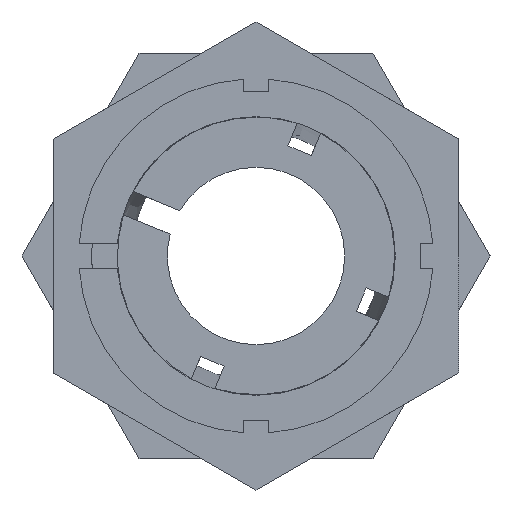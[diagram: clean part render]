
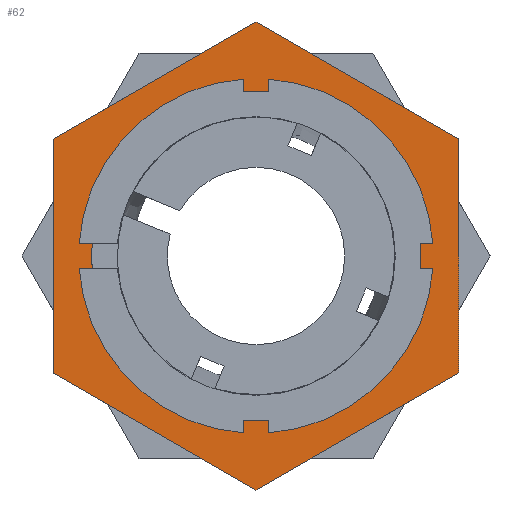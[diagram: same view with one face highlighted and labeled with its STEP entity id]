
A CAD part, left-side view. The second image highlights one B-rep face of the part: STEP entity #62.
In plain terms, the highlighted planar face has unit normal (-1, 0, 0).
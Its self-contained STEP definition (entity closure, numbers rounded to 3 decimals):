
#62 = ADVANCED_FACE ( 'NONE', ( #271, #276 ), #1613, .F. ) ;
#271 = FACE_BOUND ( 'NONE', #2342, .T. ) ;
#276 = FACE_OUTER_BOUND ( 'NONE', #2330, .T. ) ;
#453 = VECTOR ( 'NONE', #2082, 1000. ) ;
#462 = LINE ( 'NONE', #2044, #463 ) ;
#463 = VECTOR ( 'NONE', #2045, 1000. ) ;
#482 = CIRCLE ( 'NONE', #1364, 6.501 ) ;
#483 = LINE ( 'NONE', #2081, #453 ) ;
#486 = LINE ( 'NONE', #2073, #487 ) ;
#487 = VECTOR ( 'NONE', #2074, 1000. ) ;
#488 = LINE ( 'NONE', #2075, #489 ) ;
#489 = VECTOR ( 'NONE', #2076, 1000. ) ;
#490 = LINE ( 'NONE', #2077, #491 ) ;
#491 = VECTOR ( 'NONE', #2078, 1000. ) ;
#494 = CIRCLE ( 'NONE', #1368, 6.501 ) ;
#495 = LINE ( 'NONE', #2083, #496 ) ;
#496 = VECTOR ( 'NONE', #2084, 1000. ) ;
#862 = CARTESIAN_POINT ( 'NONE',  ( 11.52, 0., -6.501 ) ) ;
#863 = CARTESIAN_POINT ( 'NONE',  ( 11.52, 0., 6.501 ) ) ;
#864 = CARTESIAN_POINT ( 'NONE',  ( 11.52, 0., 9.238 ) ) ;
#865 = CARTESIAN_POINT ( 'NONE',  ( 11.52, 8., 4.619 ) ) ;
#866 = CARTESIAN_POINT ( 'NONE',  ( 11.52, 8., -4.619 ) ) ;
#867 = CARTESIAN_POINT ( 'NONE',  ( 11.52, 0., -9.238 ) ) ;
#868 = CARTESIAN_POINT ( 'NONE',  ( 11.52, -8., -4.619 ) ) ;
#869 = CARTESIAN_POINT ( 'NONE',  ( 11.52, -8., 4.619 ) ) ;
#1137 = EDGE_CURVE ( 'NONE', #1467, #1468, #462, .T. ) ;
#1146 = EDGE_CURVE ( 'NONE', #1463, #1464, #482, .T. ) ;
#1150 = EDGE_CURVE ( 'NONE', #1466, #1467, #486, .T. ) ;
#1151 = EDGE_CURVE ( 'NONE', #1469, #1470, #488, .T. ) ;
#1152 = EDGE_CURVE ( 'NONE', #1468, #1469, #490, .T. ) ;
#1153 = EDGE_CURVE ( 'NONE', #1464, #1463, #494, .T. ) ;
#1154 = EDGE_CURVE ( 'NONE', #1465, #1466, #483, .T. ) ;
#1155 = EDGE_CURVE ( 'NONE', #1470, #1465, #495, .T. ) ;
#1286 = AXIS2_PLACEMENT_3D ( 'NONE', #1612, #1615, #1616 ) ;
#1364 = AXIS2_PLACEMENT_3D ( 'NONE', #2061, #2064, #2065 ) ;
#1368 = AXIS2_PLACEMENT_3D ( 'NONE', #2071, #2079, #2080 ) ;
#1463 = VERTEX_POINT ( 'NONE', #862 ) ;
#1464 = VERTEX_POINT ( 'NONE', #863 ) ;
#1465 = VERTEX_POINT ( 'NONE', #864 ) ;
#1466 = VERTEX_POINT ( 'NONE', #865 ) ;
#1467 = VERTEX_POINT ( 'NONE', #866 ) ;
#1468 = VERTEX_POINT ( 'NONE', #867 ) ;
#1469 = VERTEX_POINT ( 'NONE', #868 ) ;
#1470 = VERTEX_POINT ( 'NONE', #869 ) ;
#1612 = CARTESIAN_POINT ( 'NONE',  ( 11.52, 50., 0. ) ) ;
#1613 = PLANE ( 'NONE',  #1286 ) ;
#1615 = DIRECTION ( 'NONE',  ( 1., 0., 0. ) ) ;
#1616 = DIRECTION ( 'NONE',  ( 0., 0., -1. ) ) ;
#2044 = CARTESIAN_POINT ( 'NONE',  ( 11.52, 0., -9.238 ) ) ;
#2045 = DIRECTION ( 'NONE',  ( 0., -0.866, -0.5 ) ) ;
#2061 = CARTESIAN_POINT ( 'NONE',  ( 11.52, 0., 0. ) ) ;
#2064 = DIRECTION ( 'NONE',  ( -1., 0., 0. ) ) ;
#2065 = DIRECTION ( 'NONE',  ( 0., 0., 1. ) ) ;
#2071 = CARTESIAN_POINT ( 'NONE',  ( 11.52, 0., 0. ) ) ;
#2073 = CARTESIAN_POINT ( 'NONE',  ( 11.52, 8., -4.619 ) ) ;
#2074 = DIRECTION ( 'NONE',  ( 0., 0., -1. ) ) ;
#2075 = CARTESIAN_POINT ( 'NONE',  ( 11.52, -8., 4.619 ) ) ;
#2076 = DIRECTION ( 'NONE',  ( 0., 0., 1. ) ) ;
#2077 = CARTESIAN_POINT ( 'NONE',  ( 11.52, -8., -4.619 ) ) ;
#2078 = DIRECTION ( 'NONE',  ( 0., -0.866, 0.5 ) ) ;
#2079 = DIRECTION ( 'NONE',  ( -1., 0., 0. ) ) ;
#2080 = DIRECTION ( 'NONE',  ( 0., 0., 1. ) ) ;
#2081 = CARTESIAN_POINT ( 'NONE',  ( 11.52, 8., 4.619 ) ) ;
#2082 = DIRECTION ( 'NONE',  ( 0., 0.866, -0.5 ) ) ;
#2083 = CARTESIAN_POINT ( 'NONE',  ( 11.52, 0., 9.238 ) ) ;
#2084 = DIRECTION ( 'NONE',  ( 0., 0.866, 0.5 ) ) ;
#2233 = ORIENTED_EDGE ( 'NONE', *, *, #1155, .T. ) ;
#2234 = ORIENTED_EDGE ( 'NONE', *, *, #1151, .T. ) ;
#2235 = ORIENTED_EDGE ( 'NONE', *, *, #1152, .T. ) ;
#2236 = ORIENTED_EDGE ( 'NONE', *, *, #1137, .T. ) ;
#2237 = ORIENTED_EDGE ( 'NONE', *, *, #1150, .T. ) ;
#2238 = ORIENTED_EDGE ( 'NONE', *, *, #1154, .T. ) ;
#2239 = ORIENTED_EDGE ( 'NONE', *, *, #1146, .F. ) ;
#2330 = EDGE_LOOP ( 'NONE', ( #2238, #2237, #2236, #2235, #2234, #2233 ) ) ;
#2342 = EDGE_LOOP ( 'NONE', ( #2479, #2239 ) ) ;
#2479 = ORIENTED_EDGE ( 'NONE', *, *, #1153, .F. ) ;
